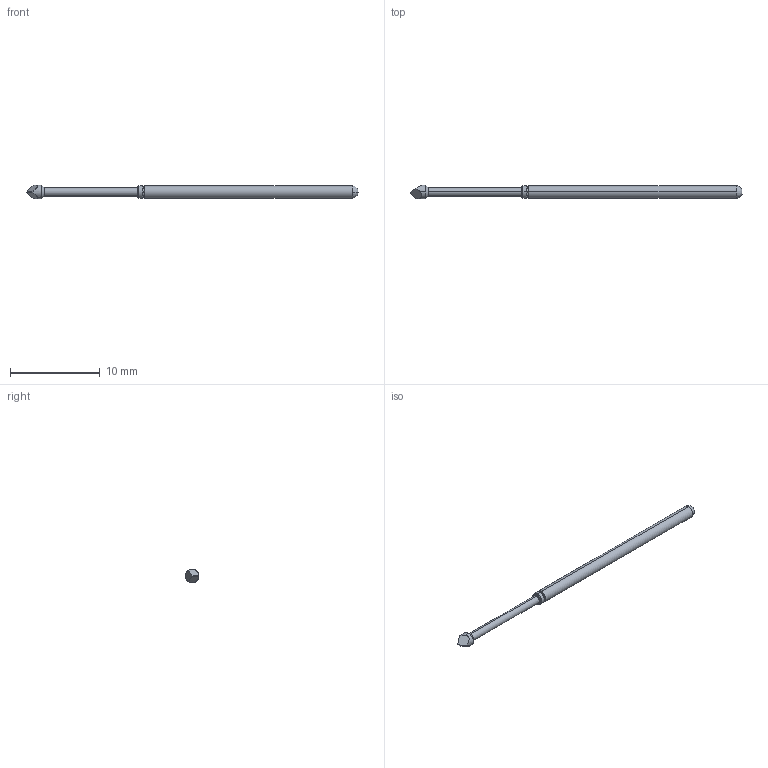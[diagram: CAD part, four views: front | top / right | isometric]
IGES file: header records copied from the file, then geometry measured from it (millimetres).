
Start section: SolidWorks IGES file using analytic representation for surfaces
Global section: file name: Z:\probe solid model mockups\Solidworks models\LTP-25\LTP-25T.IGS; native system: SolidWorks 2006 by SolidWorks Corporation; preprocessor: SolidWorks 2006 by SolidWorks Corporation; author: tsakatani; date: 071214.143324; units: inch
Bounding box: 37.08 x 1.52 x 1.52 mm (x, y, z)
Surface area: 145.4 mm2 (no closed solid volume)
Topology: 0 solids, 0 shells, 25 faces, 184 edges, 184 vertices
Faces by surface type: revolution 16, bspline 9
